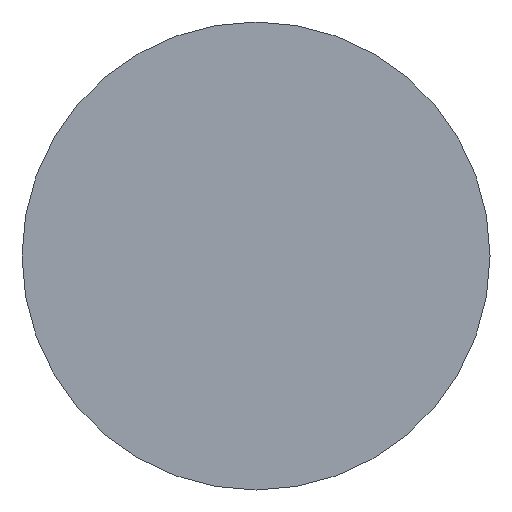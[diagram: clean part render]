
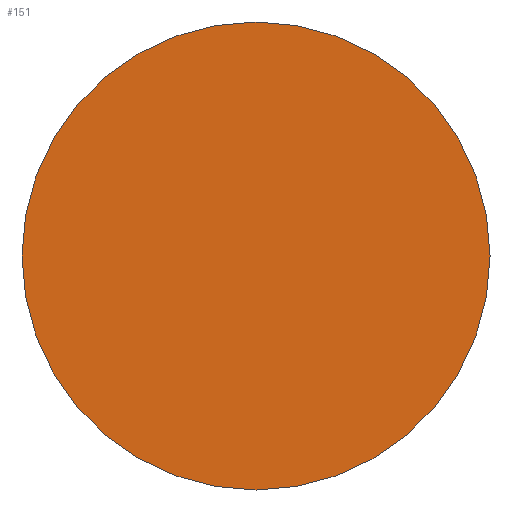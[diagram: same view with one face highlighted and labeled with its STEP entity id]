
A CAD part, front view. The second image highlights one B-rep face of the part: STEP entity #151.
In plain terms, the highlighted planar face has unit normal (0, -1, 0).
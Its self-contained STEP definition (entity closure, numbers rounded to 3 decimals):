
#7 = ORIENTED_EDGE ( 'NONE', *, *, #40, .F. ) ;
#26 = AXIS2_PLACEMENT_3D ( 'NONE', #92, #93, #95 ) ;
#33 = AXIS2_PLACEMENT_3D ( 'NONE', #72, #74, #141 ) ;
#40 = EDGE_CURVE ( 'NONE', #51, #50, #126, .T. ) ;
#50 = VERTEX_POINT ( 'NONE', #81 ) ;
#51 = VERTEX_POINT ( 'NONE', #83 ) ;
#56 = DIRECTION ( 'NONE',  ( 0., 0., 1. ) ) ;
#61 = EDGE_CURVE ( 'NONE', #50, #51, #125, .T. ) ;
#64 = ORIENTED_EDGE ( 'NONE', *, *, #61, .F. ) ;
#72 = CARTESIAN_POINT ( 'NONE',  ( 0., -31., 0. ) ) ;
#74 = DIRECTION ( 'NONE',  ( 0., 1., 0. ) ) ;
#81 = CARTESIAN_POINT ( 'NONE',  ( 0., -31., 4. ) ) ;
#83 = CARTESIAN_POINT ( 'NONE',  ( 0., -31., -4. ) ) ;
#92 = CARTESIAN_POINT ( 'NONE',  ( 0., -31., 0. ) ) ;
#93 = DIRECTION ( 'NONE',  ( 0., 1., 0. ) ) ;
#95 = DIRECTION ( 'NONE',  ( 0., 0., 1. ) ) ;
#121 = AXIS2_PLACEMENT_3D ( 'NONE', #153, #144, #56 ) ;
#122 = EDGE_LOOP ( 'NONE', ( #7, #64 ) ) ;
#125 = CIRCLE ( 'NONE', #26, 4. ) ;
#126 = CIRCLE ( 'NONE', #33, 4. ) ;
#129 = FACE_OUTER_BOUND ( 'NONE', #122, .T. ) ;
#131 = PLANE ( 'NONE',  #121 ) ;
#141 = DIRECTION ( 'NONE',  ( 0., 0., 1. ) ) ;
#144 = DIRECTION ( 'NONE',  ( 0., 1., 0. ) ) ;
#151 = ADVANCED_FACE ( 'NONE', ( #129 ), #131, .F. ) ;
#153 = CARTESIAN_POINT ( 'NONE',  ( 0., -31., 0. ) ) ;
